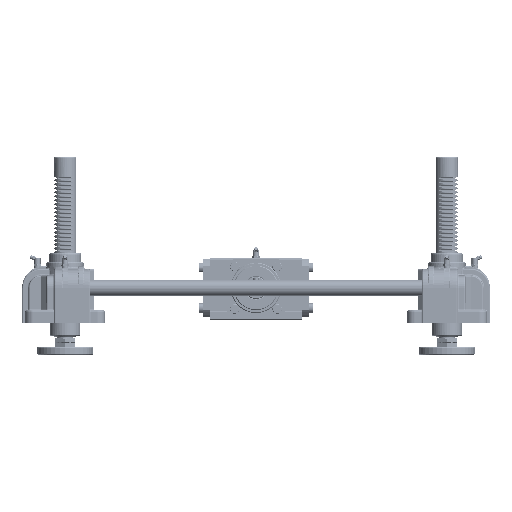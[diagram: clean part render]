
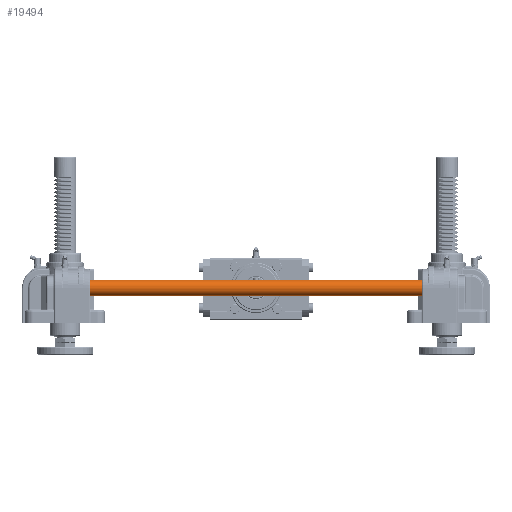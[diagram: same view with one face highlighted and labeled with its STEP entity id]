
A CAD part, left-side view. The second image highlights one B-rep face of the part: STEP entity #19494.
In plain terms, the highlighted cylindrical face has radius 12.5 mm (diameter 25 mm), a full revolution.
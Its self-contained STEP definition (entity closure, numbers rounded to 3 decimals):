
#19494=ADVANCED_FACE('',(#46916,#46917),#46918,.T.);
#46916=FACE_OUTER_BOUND('',#88465,.T.);
#46917=FACE_OUTER_BOUND('',#88466,.T.);
#46918=CYLINDRICAL_SURFACE('',#88467,12.5);
#88465=EDGE_LOOP('',(#197266));
#88466=EDGE_LOOP('',(#197267));
#88467=AXIS2_PLACEMENT_3D('',#197268,#197269,#197270);
#197266=ORIENTED_EDGE('',*,*,#232297,.T.);
#197267=ORIENTED_EDGE('',*,*,#232294,.T.);
#197268=CARTESIAN_POINT('',(0.0,0.0,642.0));
#197269=DIRECTION('',(0.0,0.0,-1.0));
#197270=DIRECTION('',(-1.0,0.0,0.0));
#232294=EDGE_CURVE('',#290447,#290447,#290448,.F.);
#232297=EDGE_CURVE('',#290453,#290453,#290454,.T.);
#290447=VERTEX_POINT('',#402794);
#290448=CIRCLE('',#402795,12.5);
#290453=VERTEX_POINT('',#402800);
#290454=CIRCLE('',#402801,12.5);
#402794=CARTESIAN_POINT('',(12.5,0.0,641.0));
#402795=AXIS2_PLACEMENT_3D('',#442035,#442036,#442037);
#402800=CARTESIAN_POINT('',(12.5,0.0,1.0));
#402801=AXIS2_PLACEMENT_3D('',#442044,#442045,#442046);
#442035=CARTESIAN_POINT('',(0.0,0.0,641.0));
#442036=DIRECTION('',(0.0,0.0,1.0));
#442037=DIRECTION('',(1.0,0.0,0.0));
#442044=CARTESIAN_POINT('',(0.0,0.0,1.0));
#442045=DIRECTION('',(0.0,0.0,1.0));
#442046=DIRECTION('',(1.0,0.0,0.0));
